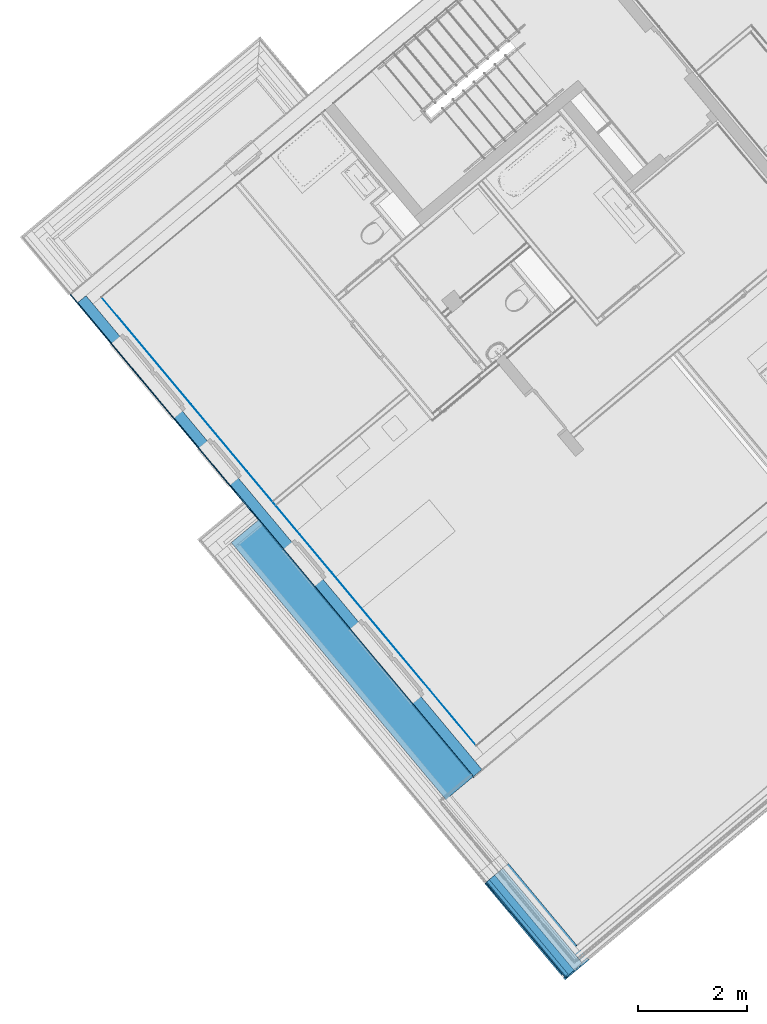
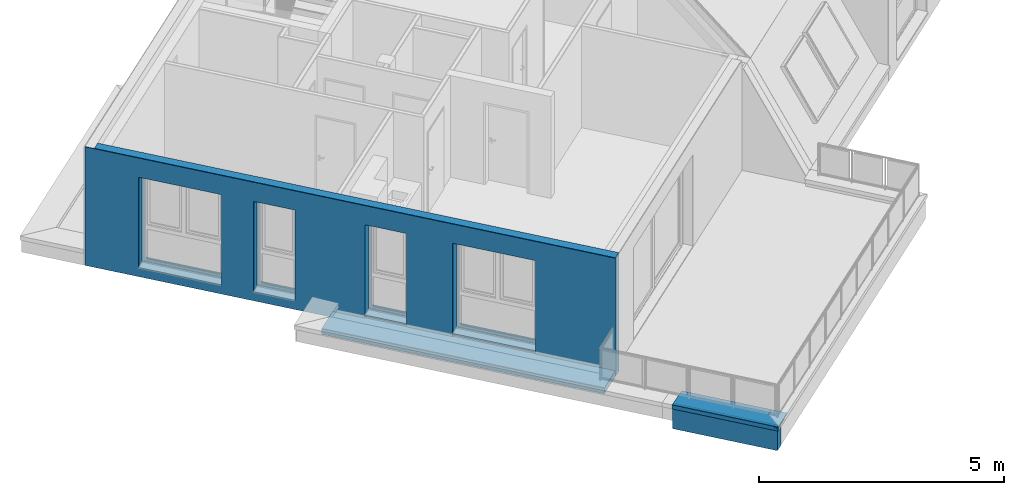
# One storey, part 16 of 61: 12 building element parts, 4 openings, 3 elements without a shape of their own.
"""IFC4 building model written with IfcOpenShell, lengths in metres."""

from ifc_helpers import new_model, entity, si_unit, converted_unit, derived_unit, direction, frame, origin_with_axes, place, context, subcontext, project, spatial, polygons, material, type_object, element, aggregate, save


model = new_model("IFC4")

# Units and contexts
model_context = context("Model", 3, precision=1e-05, world=origin_with_axes(), true_north=direction((0.0, 1.0)))
body_context = subcontext(model_context, "Body", "Model", "MODEL_VIEW")
ifc_project = project(units=[si_unit("LENGTHUNIT", "METRE"), si_unit("AREAUNIT", "SQUARE_METRE"), si_unit("VOLUMEUNIT", "CUBIC_METRE"), converted_unit("PLANEANGLEUNIT", "DEGREE", entity("IfcPlaneAngleMeasure", 0.0174532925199), si_unit("PLANEANGLEUNIT", "RADIAN"), dimensions=[0, 0, 0, 0, 0, 0, 0]), converted_unit("TIMEUNIT", "Year", entity("IfcTimeMeasure", 31556926.0), si_unit("TIMEUNIT", "SECOND"), dimensions=[0, 0, 1, 0, 0, 0, 0]), si_unit("MASSUNIT", "GRAM", prefix="KILO"), si_unit("THERMODYNAMICTEMPERATUREUNIT", "DEGREE_CELSIUS"), si_unit("LUMINOUSINTENSITYUNIT", "LUMEN"), si_unit("ENERGYUNIT", "JOULE", prefix="MEGA"), derived_unit("THERMALCONDUCTANCEUNIT", [(si_unit("POWERUNIT", "WATT"), 1), (si_unit("LENGTHUNIT", "METRE"), -1), (si_unit("THERMODYNAMICTEMPERATUREUNIT", "KELVIN"), -1)]), derived_unit("SPECIFICHEATCAPACITYUNIT", [(si_unit("ENERGYUNIT", "JOULE"), 1), (si_unit("MASSUNIT", "GRAM", prefix="KILO"), -1), (si_unit("THERMODYNAMICTEMPERATUREUNIT", "KELVIN"), -1)]), derived_unit("MASSDENSITYUNIT", [(si_unit("MASSUNIT", "GRAM", prefix="KILO"), 1), (si_unit("VOLUMEUNIT", "CUBIC_METRE"), -1)])], contexts=[model_context])

# Site, building, storey
site_placement = place(None, frame((-0.00153261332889, -0.00661245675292, 0.0), z_axis=(0.0, 0.0, 1.0), x_axis=(1.0, 0.0, 0.0)))
site = spatial("IfcSite", under=ifc_project, at=site_placement, Name="Gelände", CompositionType="ELEMENT")
building_placement = place(site_placement, origin_with_axes())
building = spatial("IfcBuilding", under=site, at=building_placement, Name="Gebäude", CompositionType="ELEMENT")
storey_placement = place(building_placement, frame((0.0, 0.0, 5.7), z_axis=(0.0, 0.0, 1.0), x_axis=(1.0, 0.0, 0.0)))
storey = spatial("IfcBuildingStorey", under=building, at=storey_placement, Name="DG1", CompositionType="ELEMENT", Elevation=5.7)

# Wall, openings, building element parts
wall_type_1 = type_object("IfcWallType", Name="AW EG 420", PredefinedType="NOTDEFINED")
wall_1_placement = place(storey_placement, frame((-8.68307438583, 19.0183290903, 0.0), z_axis=(0.0, 0.0, 1.0), x_axis=(0.641209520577, -0.767365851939, 0.0)))
wall_1 = element("IfcWall", 1, at=wall_1_placement, inside=storey, type_object=wall_type_1, Name="Wand-002", PredefinedType="NOTDEFINED")
opening_1_placement = place(wall_1_placement, frame((6.56443580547, 0.0, 0.22), z_axis=(0.0, 0.0, 1.0), x_axis=(1.0, 0.0, 0.0)))
element("IfcOpeningElement", 2, at=opening_1_placement, cuts=wall_1, Name="Fenster-001", context=body_context, identifier="Reference", shape_type="Tessellation", body=[
    polygons([(0.45, 0.215, 0.0), (0.45, 0.215, 2.26), (0.45, -5.69878587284, 2.26), (0.45, -5.69878587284, 0.0), (0.45, 6.11878587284, 0.0), (0.45, 6.11878587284, 2.26), (-0.45, 0.215, 2.26), (-0.45, -5.69878587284, 2.26), (-0.45, 6.11878587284, 2.26), (-0.45, -5.69878587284, 0.0), (-0.45, 0.215, 0.0), (-0.45, 6.11878587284, 0.0)], [[[1, 2, 3, 4]], [[2, 1, 5, 6]], [[7, 8, 3, 2, 6, 9]], [[8, 10, 4, 3]], [[1, 4, 10, 11, 12, 5]], [[6, 5, 12, 9]], [[7, 11, 10, 8]], [[11, 7, 9, 12]]], closed=True),
])
opening_2_placement = place(wall_1_placement, frame((8.92445021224, 0.0, 0.22), z_axis=(0.0, 0.0, 1.0), x_axis=(1.0, 0.0, 0.0)))
element("IfcOpeningElement", 3, at=opening_2_placement, cuts=wall_1, Name="Fenster-001", context=body_context, identifier="Reference", shape_type="Tessellation", body=[
    polygons([(0.9, 0.215, 0.0), (0.9, 0.215, 2.26), (0.9, -5.69878587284, 2.26), (0.9, -5.69878587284, 0.0), (0.9, 6.11878587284, 0.0), (0.9, 6.11878587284, 2.26), (-0.9, 0.215, 2.26), (-0.9, -5.69878587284, 2.26), (-0.9, 6.11878587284, 2.26), (-0.9, -5.69878587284, 0.0), (-0.9, 0.215, 0.0), (-0.9, 6.11878587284, 0.0)], [[[1, 2, 3, 4]], [[2, 1, 5, 6]], [[7, 8, 3, 2, 6, 9]], [[8, 10, 4, 3]], [[1, 4, 10, 11, 12, 5]], [[6, 5, 12, 9]], [[7, 11, 10, 8]], [[11, 7, 9, 12]]], closed=True),
])
opening_3_placement = place(wall_1_placement, frame((4.13955898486, 0.0, 0.22), z_axis=(0.0, 0.0, 1.0), x_axis=(1.0, 0.0, 0.0)))
element("IfcOpeningElement", 4, at=opening_3_placement, cuts=wall_1, Name="Fenster-001", context=body_context, identifier="Reference", shape_type="Tessellation", body=[
    polygons([(0.45, 0.215, 0.0), (0.45, 0.215, 2.26), (0.45, -5.69878587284, 2.26), (0.45, -5.69878587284, 0.0), (0.45, 6.11878587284, 0.0), (0.45, 6.11878587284, 2.26), (-0.45, 0.215, 2.26), (-0.45, -5.69878587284, 2.26), (-0.45, 6.11878587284, 2.26), (-0.45, -5.69878587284, 0.0), (-0.45, 0.215, 0.0), (-0.45, 6.11878587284, 0.0)], [[[1, 2, 3, 4]], [[2, 1, 5, 6]], [[7, 8, 3, 2, 6, 9]], [[8, 10, 4, 3]], [[1, 4, 10, 11, 12, 5]], [[6, 5, 12, 9]], [[7, 11, 10, 8]], [[11, 7, 9, 12]]], closed=True),
])
opening_4_placement = place(wall_1_placement, frame((2.0854909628, 0.0, 0.22), z_axis=(0.0, 0.0, 1.0), x_axis=(1.0, 0.0, 0.0)))
element("IfcOpeningElement", 5, at=opening_4_placement, cuts=wall_1, Name="Fenster-001", context=body_context, identifier="Reference", shape_type="Tessellation", body=[
    polygons([(0.9, 0.215, 0.0), (0.9, 0.215, 2.26), (0.9, -5.69878587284, 2.26), (0.9, -5.69878587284, 0.0), (0.9, 6.11878587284, 0.0), (0.9, 6.11878587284, 2.26), (-0.9, 0.215, 2.26), (-0.9, -5.69878587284, 2.26), (-0.9, 6.11878587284, 2.26), (-0.9, -5.69878587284, 0.0), (-0.9, 0.215, 0.0), (-0.9, 6.11878587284, 0.0)], [[[1, 2, 3, 4]], [[2, 1, 5, 6]], [[7, 8, 3, 2, 6, 9]], [[8, 10, 4, 3]], [[1, 4, 10, 11, 12, 5]], [[6, 5, 12, 9]], [[7, 11, 10, 8]], [[11, 7, 9, 12]]], closed=True),
])
ifc_material_1 = material(Name="Zementputz")
building_element_part_1_placement = place(wall_1_placement, origin_with_axes())
building_element_part_1 = element("IfcBuildingElementPart", 6, at=building_element_part_1_placement, material=ifc_material_1, Name="Zementputz", PredefinedType="NOTDEFINED", context=body_context, shape_type="Tessellation", body=[
    polygons([(11.1645998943, 0.415, 2.76), (0.42, 0.415, 2.76), (0.42, 0.415, 0.0), (11.1645998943, 0.415, 0.0), (7.01443580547, 0.415, 0.22), (6.11443580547, 0.415, 0.22), (6.11443580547, 0.415, 2.48), (7.01443580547, 0.415, 2.48), (9.82445021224, 0.415, 2.48), (9.82445021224, 0.415, 0.22), (8.02445021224, 0.415, 0.22), (8.02445021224, 0.415, 2.48), (3.68955898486, 0.415, 2.48), (4.58955898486, 0.415, 2.48), (4.58955898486, 0.415, 0.22), (3.68955898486, 0.415, 0.22), (1.1854909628, 0.415, 0.22), (1.1854909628, 0.415, 2.48), (2.9854909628, 0.415, 2.48), (2.9854909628, 0.415, 0.22), (11.1645966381, 0.42, 2.76), (0.42, 0.42, 2.76), (0.42, 0.42, 0.0), (11.1645966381, 0.42, 0.0), (7.01443580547, 0.42, 0.22), (6.11443580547, 0.42, 0.22), (6.11443580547, 0.42, 2.48), (7.01443580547, 0.42, 2.48), (9.82445021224, 0.42, 2.48), (9.82445021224, 0.42, 0.22), (8.02445021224, 0.42, 0.22), (8.02445021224, 0.42, 2.48), (4.58955898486, 0.42, 2.48), (3.68955898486, 0.42, 2.48), (4.58955898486, 0.42, 0.22), (3.68955898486, 0.42, 0.22), (1.1854909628, 0.42, 0.22), (1.1854909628, 0.42, 2.48), (2.9854909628, 0.42, 2.48), (2.9854909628, 0.42, 0.22)], [[[1, 2, 3, 4], [5, 6, 7, 8], [9, 10, 11, 12], [13, 14, 15, 16], [17, 18, 19, 20]], [[1, 21, 22, 2]], [[2, 22, 23, 3]], [[24, 4, 3, 23]], [[21, 1, 4, 24]], [[5, 25, 26, 6]], [[6, 26, 27, 7]], [[7, 27, 28, 8]], [[8, 28, 25, 5]], [[10, 9, 29, 30]], [[11, 10, 30, 31]], [[12, 11, 31, 32]], [[9, 12, 32, 29]], [[33, 14, 13, 34]], [[35, 15, 14, 33]], [[36, 16, 15, 35]], [[34, 13, 16, 36]], [[37, 38, 18, 17]], [[38, 39, 19, 18]], [[39, 40, 20, 19]], [[40, 37, 17, 20]], [[22, 21, 24, 23], [27, 26, 25, 28], [29, 32, 31, 30], [35, 33, 34, 36], [37, 40, 39, 38]]], closed=True),
])
ifc_material_2 = material(Name="EPS 1")
building_element_part_2_placement = place(wall_1_placement, origin_with_axes())
building_element_part_2 = element("IfcBuildingElementPart", 7, at=building_element_part_2_placement, material=ifc_material_2, Name="EPS 1", PredefinedType="NOTDEFINED", context=body_context, shape_type="Tessellation", body=[
    polygons([(11.5648604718, 0.015, 0.0), (11.5648604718, 0.015, 2.96), (0.215, 0.015, 2.96), (0.215, 0.015, 0.0), (7.01443580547, 0.015, 0.22), (6.11443580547, 0.015, 0.22), (6.11443580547, 0.015, 2.48), (7.01443580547, 0.015, 2.48), (9.82445021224, 0.015, 2.48), (9.82445021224, 0.015, 0.22), (8.02445021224, 0.015, 0.22), (8.02445021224, 0.015, 2.48), (3.68955898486, 0.015, 2.48), (4.58955898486, 0.015, 2.48), (4.58955898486, 0.015, 0.22), (3.68955898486, 0.015, 0.22), (1.1854909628, 0.015, 0.22), (1.1854909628, 0.015, 2.48), (2.9854909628, 0.015, 2.48), (2.9854909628, 0.015, 0.22), (11.5647302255, 0.215, 0.0), (11.5647302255, 0.215, 2.96), (0.215, 0.215, 2.96), (0.215, 0.215, 0.0), (7.01443580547, 0.215, 0.22), (6.11443580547, 0.215, 0.22), (6.11443580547, 0.215, 2.48), (7.01443580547, 0.215, 2.48), (9.82445021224, 0.215, 2.48), (9.82445021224, 0.215, 0.22), (8.02445021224, 0.215, 0.22), (8.02445021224, 0.215, 2.48), (4.58955898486, 0.215, 2.48), (3.68955898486, 0.215, 2.48), (4.58955898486, 0.215, 0.22), (3.68955898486, 0.215, 0.22), (1.1854909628, 0.215, 0.22), (1.1854909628, 0.215, 2.48), (2.9854909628, 0.215, 2.48), (2.9854909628, 0.215, 0.22)], [[[1, 2, 3, 4], [5, 6, 7, 8], [9, 10, 11, 12], [13, 14, 15, 16], [17, 18, 19, 20]], [[1, 21, 22, 2]], [[2, 22, 23, 3]], [[23, 24, 4, 3]], [[21, 1, 4, 24]], [[5, 25, 26, 6]], [[6, 26, 27, 7]], [[7, 27, 28, 8]], [[8, 28, 25, 5]], [[10, 9, 29, 30]], [[11, 10, 30, 31]], [[12, 11, 31, 32]], [[9, 12, 32, 29]], [[33, 14, 13, 34]], [[35, 15, 14, 33]], [[36, 16, 15, 35]], [[34, 13, 16, 36]], [[37, 38, 18, 17]], [[38, 39, 19, 18]], [[39, 40, 20, 19]], [[40, 37, 17, 20]], [[22, 21, 24, 23], [27, 26, 25, 28], [29, 32, 31, 30], [35, 33, 34, 36], [37, 40, 39, 38]]], closed=True),
])
building_element_part_3_placement = place(wall_1_placement, origin_with_axes())
building_element_part_3 = element("IfcBuildingElementPart", 8, at=building_element_part_3_placement, material=ifc_material_1, Name="Zementputz", PredefinedType="NOTDEFINED", context=body_context, shape_type="Tessellation", body=[
    polygons([(7.01443580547, 0.0, 2.48), (7.01443580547, 0.0, 0.22), (7.01443580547, 0.0, 0.15), (8.02445021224, 0.0, 0.15), (8.02445021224, 0.0, 0.22), (8.02445021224, 0.0, 2.48), (9.82445021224, 0.0, 2.48), (9.82445021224, 0.0, 0.22), (9.82445021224, 0.0, 0.15), (11.5798702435, 0.0, 0.15), (11.5798702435, 0.0, 2.96), (0.015, 0.0, 2.96), (0.015, 0.0, 0.0), (5.41075109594, 0.0, 0.0), (5.41075109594, 0.0, 0.15), (6.11443580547, 0.0, 0.15), (6.11443580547, 0.0, 0.22), (6.11443580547, 0.0, 2.48), (3.68955898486, 0.0, 2.48), (4.58955898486, 0.0, 2.48), (4.58955898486, 0.0, 0.22), (3.68955898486, 0.0, 0.22), (1.1854909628, 0.0, 0.22), (1.1854909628, 0.0, 2.48), (2.9854909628, 0.0, 2.48), (2.9854909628, 0.0, 0.22), (7.01443580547, 0.0150000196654, 2.48), (7.01443580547, 0.0150000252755, 0.22), (7.01443580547, 0.0150000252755, 0.15), (8.02445021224, 0.0150000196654, 0.15), (8.02445021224, 0.0150000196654, 0.22), (8.02445021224, 0.0150000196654, 2.48), (9.82445021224, 0.0150000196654, 2.48), (9.82445021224, 0.0150000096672, 0.22), (9.82445021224, 0.0150000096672, 0.15), (11.579860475, 0.015, 0.15), (11.579860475, 0.015, 2.96), (0.015, 0.015, 2.96), (0.015, 0.015, 0.0), (5.41078870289, 0.0150000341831, 0.0), (5.41078870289, 0.0150000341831, 0.15), (6.11443580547, 0.0150000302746, 0.15), (6.11443580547, 0.0150000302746, 0.22), (6.11443580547, 0.0150000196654, 2.48), (4.58955898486, 0.0150000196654, 2.48), (3.68955898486, 0.0150000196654, 2.48), (4.58955898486, 0.0150000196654, 0.22), (3.68955898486, 0.0150000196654, 0.22), (1.1854909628, 0.0150000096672, 0.22), (1.1854909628, 0.0150000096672, 2.48), (2.9854909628, 0.0150000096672, 2.48), (2.9854909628, 0.0150000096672, 0.22)], [[[1, 2, 3, 4, 5, 6, 7, 8, 9, 10, 11, 12, 13, 14, 15, 16, 17, 18], [19, 20, 21, 22], [23, 24, 25, 26]], [[1, 27, 28, 2]], [[3, 2, 28, 29]], [[30, 4, 3, 29]], [[4, 30, 31, 5]], [[6, 5, 31, 32]], [[7, 6, 32, 33]], [[8, 7, 33, 34]], [[35, 9, 8, 34]], [[9, 35, 36, 10]], [[10, 36, 37, 11]], [[11, 37, 38, 12]], [[38, 39, 13, 12]], [[40, 14, 13, 39]], [[41, 15, 14, 40]], [[42, 16, 15, 41]], [[42, 43, 17, 16]], [[17, 43, 44, 18]], [[18, 44, 27, 1]], [[45, 20, 19, 46]], [[47, 21, 20, 45]], [[48, 22, 21, 47]], [[46, 19, 22, 48]], [[49, 50, 24, 23]], [[50, 51, 25, 24]], [[51, 52, 26, 25]], [[52, 49, 23, 26]], [[38, 37, 36, 35, 34, 33, 32, 31, 30, 29, 28, 27, 44, 43, 42, 41, 40, 39], [47, 45, 46, 48], [49, 52, 51, 50]]], closed=True),
])
aggregate(wall_1, [building_element_part_1, building_element_part_2, building_element_part_3])

# Wall, building element parts
wall_type_2 = type_object("IfcWallType", Name="Balkon Dämmung runter 574 x 610", PredefinedType="NOTDEFINED")
wall_2_placement = place(storey_placement, frame((-0.869246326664, 8.34153645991, -0.2), z_axis=(0.0, 0.0, 1.0), x_axis=(0.640952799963, -0.767580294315, 0.0)))
wall_2 = element("IfcWall", 9, at=wall_2_placement, inside=storey, type_object=wall_type_2, Name="Wand-004", PredefinedType="NOTDEFINED")
ifc_material_3 = material(Name="Stahl")
building_element_part_4_placement = place(wall_2_placement, origin_with_axes())
building_element_part_4 = element("IfcBuildingElementPart", 10, at=building_element_part_4_placement, material=ifc_material_3, Name="Stahl", PredefinedType="NOTDEFINED", context=body_context, shape_type="Tessellation", body=[
    polygons([(2.31177297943, -0.241500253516, 0.575979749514), (2.31177213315, -0.241500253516, 0.510056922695), (2.31177113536, -0.239536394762, 0.510056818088), (2.31177146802, -0.238182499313, 0.511410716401), (2.3117723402, -0.240097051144, 0.511410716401), (2.31177158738, -0.240146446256, 0.51136132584), (2.31177236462, -0.240150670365, 0.575979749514), (2.31172276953, -0.241500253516, 0.510007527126), (2.31042339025, -0.241500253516, 0.575979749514), (2.25910484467, -0.241500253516, 0.575979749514), (2.19919057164, -0.241500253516, 0.575979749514), (2.19919057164, -0.241500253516, 0.57982217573), (2.19919057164, -0.241500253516, 0.581921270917), (2.25907296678, -0.241500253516, 0.581921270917), (2.31042377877, -0.241500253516, 0.581921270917), (2.31177297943, -0.241500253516, 0.581921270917), (2.31177297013, -0.241500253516, 0.608602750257), (2.31042551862, -0.241500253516, 0.608602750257), (2.30915944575, -0.241500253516, 0.608602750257), (2.31042552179, -0.241500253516, 0.60865214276), (2.31177297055, -0.241500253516, 0.60865214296), (2.31177298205, -0.241500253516, 0.610006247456), (-8.02066887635e-05, -0.241500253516, 0.610006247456), (-8.02066887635e-05, -0.241500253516, 0.510007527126), (2.3108152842, -0.240592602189, 0.509099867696), (2.31081523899, -0.240493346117, 0.509099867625), (2.28406254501, -0.240493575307, 0.509099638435), (2.28406256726, -0.240542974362, 0.509050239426), (-8.02066887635e-05, -0.240542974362, 0.509050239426), (-8.02066887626e-05, -0.231373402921, 0.518219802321), (2.3036054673, -0.23137340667, 0.518219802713), (2.31041765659, -0.238182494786, 0.511410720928), (2.31041852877, -0.240097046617, 0.511410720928), (-8.02066887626e-05, -0.232283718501, 0.519224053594), (-8.02066887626e-05, -0.240146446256, 0.51136132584), (2.30260163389, -0.23228372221, 0.519224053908), (2.19918995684, -0.240150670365, 0.575979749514), (2.25910422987, -0.240150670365, 0.575979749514), (2.31042277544, -0.240150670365, 0.575979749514), (-8.02066887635e-05, -0.240152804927, 0.608602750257), (2.30915883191, -0.240152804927, 0.608602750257), (2.31042490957, -0.240152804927, 0.608602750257), (2.31177219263, -0.240152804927, 0.608602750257), (2.3117723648, -0.240151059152, 0.581921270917), (2.31042316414, -0.240151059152, 0.581921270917), (2.25907235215, -0.240151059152, 0.581921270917), (2.19918995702, -0.240151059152, 0.581921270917), (2.19918995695, -0.240150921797, 0.57982217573), (2.30914178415, -0.202730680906, 0.608602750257), (2.31040848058, -0.204095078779, 0.60865214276), (2.31175593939, -0.204095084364, 0.60865214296), (2.30832403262, -0.201849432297, 0.608570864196), (1.95664024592, 0.149654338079, 0.5958462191), (1.95655714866, 0.332051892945, 0.589243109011), (0.000110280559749, 0.332051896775, 0.589243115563), (-6.78303214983e-05, -0.239287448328, 0.608571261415), (2.28406258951, -0.240592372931, 0.509099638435), (2.30834108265, -0.239276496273, 0.608570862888), (1.95665729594, 0.11222723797, 0.5958462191), (1.95655776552, 0.330698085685, 0.587937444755), (1.95655714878, 0.332051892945, 0.587937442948), (0.000110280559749, 0.332051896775, 0.489652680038), (1.95655714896, 0.332051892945, 0.586106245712), (1.95655714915, 0.332051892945, 0.584015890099), (1.95655714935, 0.332051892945, 0.581921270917), (1.95655714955, 0.332051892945, 0.579822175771), (1.95655714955, 0.332051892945, 0.575979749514), (1.95655714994, 0.332051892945, 0.575576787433), (1.95655715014, 0.332051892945, 0.573880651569), (1.95655715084, 0.332051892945, 0.567947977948), (1.9565571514, 0.332051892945, 0.560000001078), (1.95655715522, 0.332051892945, 0.519273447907), (1.95655715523, 0.332051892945, 0.519224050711), (1.95655715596, 0.332051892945, 0.511410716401), (1.95655715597, 0.332051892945, 0.51136132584), (1.95655715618, 0.332051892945, 0.509099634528), (1.95655715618, 0.332051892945, 0.509050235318), (1.9565571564, 0.332051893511, 0.506731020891), (1.95655715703, 0.332051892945, 0.499999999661), (1.95655715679, 0.332051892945, 0.498915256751), (1.95847171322, 0.332051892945, 0.498915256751), (1.95837870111, 0.332051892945, 0.498822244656), (1.95616062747, 0.332051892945, 0.496604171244), (1.96880428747, 0.332051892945, 0.496604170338), (1.96880428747, 0.332051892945, 0.491006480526), (1.96880428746, 0.33205189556, 0.489652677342), (0.000106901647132, 0.321878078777, 0.497911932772), (0.000107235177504, 0.32288233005, 0.498822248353), (0.000109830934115, 0.330698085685, 0.491006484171), (0.000109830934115, 0.330698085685, 0.587937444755), (0.000109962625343, 0.331094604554, 0.488695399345), (1.95655776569, 0.330698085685, 0.586106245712), (1.95655776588, 0.330698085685, 0.584015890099), (1.95655776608, 0.330698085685, 0.581921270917), (1.95655776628, 0.330698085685, 0.579822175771), (1.95655776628, 0.330698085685, 0.575979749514), (1.95655776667, 0.330698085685, 0.575576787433), (1.95655776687, 0.330698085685, 0.573880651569), (1.95655776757, 0.330698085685, 0.567947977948), (1.95655776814, 0.330698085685, 0.560000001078), (1.95655777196, 0.330698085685, 0.519273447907), (1.95655777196, 0.330698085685, 0.519224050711), (1.95655777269, 0.330698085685, 0.511410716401), (1.9565577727, 0.330698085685, 0.51136132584), (1.95655777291, 0.330698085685, 0.509099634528), (1.95655777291, 0.330698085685, 0.509050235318), (1.95655777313, 0.330698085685, 0.506731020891), (1.95655777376, 0.330698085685, 0.499999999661), (1.95655777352, 0.330698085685, 0.498915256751), (1.95847232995, 0.330698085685, 0.498915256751), (1.95837931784, 0.330698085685, 0.498822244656), (1.9561612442, 0.330698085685, 0.496604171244), (1.9688049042, 0.330698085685, 0.496604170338), (1.9688049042, 0.330698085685, 0.491006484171), (1.96880577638, 0.328783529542, 0.491006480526), (1.96880472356, 0.331094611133, 0.488695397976), (1.96880892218, 0.32187807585, 0.497911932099), (1.96880846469, 0.322882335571, 0.498822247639), (1.96880745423, 0.325100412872, 0.496604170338), (1.96880832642, 0.323185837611, 0.496604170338)], [[[1, 2, 3, 4, 5, 6, 7]], [[8, 2, 1, 9, 10, 11, 12, 13, 14, 15, 16, 17, 18, 19, 20, 21, 22, 23, 24]], [[2, 8, 25, 26, 3]], [[27, 28, 29, 30, 31, 32, 4, 3, 26]], [[5, 4, 32, 33]], [[34, 35, 6, 5, 33, 36]], [[37, 38, 39, 7, 6, 35, 40, 41, 42, 43, 44, 45, 46, 47, 48]], [[9, 1, 7, 39]], [[10, 9, 39, 38]], [[11, 10, 38, 37]], [[37, 48, 12, 11]], [[13, 12, 48, 47]], [[14, 13, 47, 46]], [[15, 14, 46, 45]], [[16, 15, 45, 44]], [[17, 16, 44, 43]], [[18, 17, 43, 42]], [[19, 18, 42, 41]], [[19, 41, 49, 50, 20]], [[21, 20, 50, 51]], [[22, 21, 51]], [[23, 22, 51, 50, 49, 52, 53, 54, 55]], [[29, 24, 23, 56, 40, 35, 34, 30]], [[28, 57, 25, 8, 24, 29]], [[57, 27, 26, 25]], [[57, 28, 27]], [[30, 34, 36, 31]], [[33, 32, 31, 36]], [[58, 41, 40, 56]], [[41, 58, 52, 49]], [[52, 58, 59, 53]], [[53, 59, 60, 61, 54]], [[62, 55, 54, 61, 63, 64, 65, 66, 67, 68, 69, 70, 71, 72, 73, 74, 75, 76, 77, 78, 79, 80, 81, 82, 83, 84, 85, 86]], [[87, 88, 89, 90, 56, 23, 55, 62, 91]], [[58, 56, 90, 60, 59]], [[60, 92, 63, 61]], [[92, 93, 64, 63]], [[93, 94, 65, 64]], [[94, 95, 66, 65]], [[95, 96, 67, 66]], [[96, 97, 68, 67]], [[97, 98, 69, 68]], [[98, 99, 70, 69]], [[99, 100, 71, 70]], [[100, 101, 72, 71]], [[101, 102, 73, 72]], [[102, 103, 74, 73]], [[103, 104, 75, 74]], [[104, 105, 76, 75]], [[105, 106, 77, 76]], [[106, 107, 78, 77]], [[107, 108, 79, 78]], [[108, 109, 80, 79]], [[80, 109, 110, 81]], [[110, 111, 82, 81]], [[112, 83, 82, 111]], [[83, 112, 113, 84]], [[114, 85, 84, 113]], [[114, 115, 116, 86, 85]], [[91, 62, 86, 116]], [[88, 87, 117, 118]], [[89, 88, 118, 119, 114]], [[90, 89, 114, 113, 112, 111, 110, 109, 108, 107, 106, 105, 104, 103, 102, 101, 100, 99, 98, 97, 96, 95, 94, 93, 92, 60]], [[87, 91, 116, 115, 120, 117]], [[115, 114, 119, 120]], [[120, 119, 118, 117]]], closed=True),
])
ifc_material_4 = material(Name="Holzwerkstoff")
building_element_part_5_placement = place(wall_2_placement, origin_with_axes())
building_element_part_5 = element("IfcBuildingElementPart", 11, at=building_element_part_5_placement, material=ifc_material_4, Name="Holzwerkstoff", PredefinedType="NOTDEFINED", context=body_context, shape_type="Tessellation", body=[
    polygons([(-6.30974915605e-05, -0.189984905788, 0.586106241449), (-8.02066887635e-05, -0.239999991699, 0.587852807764), (-8.02066887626e-05, -0.239276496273, 0.608570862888), (0.000109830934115, 0.330698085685, 0.587937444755), (0.000109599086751, 0.329999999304, 0.567947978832), (5.31755593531e-05, 0.160110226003, 0.573880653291), (3.32118436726e-05, 0.0999999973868, 0.575979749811), (-4.32169065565e-05, -0.130124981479, 0.584015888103), (2.25902712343, -0.189985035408, 0.586106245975), (2.30906485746, -0.239999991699, 0.587852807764), (2.30906195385, -0.239997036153, 0.587937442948), (2.30878564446, -0.239720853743, 0.595846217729), (2.30834108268, -0.239276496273, 0.608570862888), (2.30862531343, 0.112227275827, 0.595846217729), (2.30880197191, 0.330698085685, 0.587937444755), (2.30880492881, 0.330695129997, 0.587852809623), (2.2587899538, 0.330634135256, 0.586106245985), (2.19892996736, 0.330561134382, 0.584015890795), (2.13894792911, 0.330487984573, 0.581921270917), (2.07883772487, 0.330414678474, 0.579822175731), (1.96880500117, 0.330280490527, 0.575979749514), (1.95726578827, 0.330266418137, 0.575576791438), (2.07886140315, 0.33026641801, 0.575576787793), (2.07887086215, 0.330207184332, 0.573880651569), (2.07890394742, 0.329999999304, 0.567947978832), (2.07894835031, 0.160110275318, 0.573880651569), (2.07896104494, 0.111539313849, 0.575576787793), (1.95736543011, 0.111539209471, 0.575576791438), (1.96890990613, 0.100000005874, 0.575979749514), (2.0789928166, -0.0100327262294, 0.579822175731), (2.13913043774, -0.0701429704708, 0.581921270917), (2.19913983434, -0.130125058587, 0.584015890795)], [[[1, 2, 3, 4, 5, 6, 7, 8]], [[9, 10, 2, 1]], [[10, 11, 12, 13, 3, 2]], [[3, 13, 14, 15, 4]], [[5, 4, 15, 16, 17, 18, 19, 20, 21, 22, 23, 24, 25]], [[6, 5, 25, 26]], [[7, 6, 26, 27, 28, 29]], [[8, 7, 29, 30, 31, 32]], [[9, 1, 8, 32]], [[10, 9, 17, 16]], [[11, 10, 16, 15]], [[12, 11, 15, 14]], [[12, 14, 13]], [[9, 32, 18, 17]], [[32, 31, 19, 18]], [[31, 30, 20, 19]], [[30, 29, 21, 20]], [[29, 28, 22, 21]], [[28, 27, 23, 22]], [[27, 26, 24, 23]], [[26, 25, 24]]], closed=True),
])
ifc_material_5 = material(Name="Brettschichtholz")
building_element_part_6_placement = place(wall_2_placement, origin_with_axes())
building_element_part_6 = element("IfcBuildingElementPart", 12, at=building_element_part_6_placement, material=ifc_material_5, Name="Brettschichtholz", PredefinedType="NOTDEFINED", context=body_context, shape_type="Tessellation", body=[
    polygons([(-7.14054555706e-05, -0.214999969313, 0.499999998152), (-7.14054555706e-05, -0.214999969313, 0.509050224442), (-7.14054596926e-05, -0.214999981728, 0.560000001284), (-6.31440121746e-05, -0.190124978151, 0.560000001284), (-4.32169069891e-05, -0.130124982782, 0.560000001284), (3.32118462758e-05, 0.100000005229, 0.560000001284), (5.31389514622e-05, 0.160000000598, 0.560000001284), (6.64236901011e-05, 0.200000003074, 0.560000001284), (6.64236873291e-05, 0.199999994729, 0.500000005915), (2.28405351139, -0.214999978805, 0.500000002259), (2.28405351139, -0.214999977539, 0.509099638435), (2.28405350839, -0.214999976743, 0.51136132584), (2.28405350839, -0.214999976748, 0.511410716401), (2.28405350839, -0.214999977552, 0.519224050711), (2.28405350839, -0.214999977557, 0.519273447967), (2.28405350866, -0.21499998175, 0.560000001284), (2.28404217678, -0.190124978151, 0.560000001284), (2.2840148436, -0.130124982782, 0.560000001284), (2.28391000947, 0.100000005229, 0.560000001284), (2.28388267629, 0.160000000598, 0.560000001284), (2.28386445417, 0.200000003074, 0.560000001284), (2.2838644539, 0.19999999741, 0.519273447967), (2.2838644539, 0.199999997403, 0.519224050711), (2.2838644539, 0.199999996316, 0.511410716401), (2.2838644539, 0.199999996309, 0.51136132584), (2.28386445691, 0.199999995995, 0.509099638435), (2.28386445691, 0.199999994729, 0.500000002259)], [[[1, 2, 3, 4, 5, 6, 7, 8, 9]], [[2, 1, 10, 11, 12, 13, 14, 15, 16, 3]], [[3, 16, 17, 4]], [[5, 4, 17, 18]], [[6, 5, 18, 19]], [[7, 6, 19, 20]], [[8, 7, 20, 21]], [[9, 8, 21, 22, 23, 24, 25, 26, 27]], [[10, 1, 9, 27]], [[11, 10, 27, 26]], [[12, 11, 26, 25]], [[12, 25, 24, 13]], [[14, 13, 24, 23]], [[15, 14, 23, 22]], [[16, 15, 22, 21, 20, 19, 18, 17]]], closed=True),
])
building_element_part_7_placement = place(wall_2_placement, origin_with_axes())
building_element_part_7 = element("IfcBuildingElementPart", 13, at=building_element_part_7_placement, material=ifc_material_2, Name="EPS 1", PredefinedType="NOTDEFINED", context=body_context, shape_type="Tessellation", body=[
    polygons([(0.0, -6.04659078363e-09, 0.2), (0.0, -2.90217805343e-09, 0.500000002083), (2.2839555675, -2.90217982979e-09, 0.500000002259), (2.28395556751, -2.73519074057e-09, 0.200000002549), (-6.6423675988e-05, -0.19999996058, 0.499999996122), (-6.64236759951e-05, -0.1999999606, 0.2), (2.28404667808, -0.19999996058, 0.500000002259), (2.28404667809, -0.19999996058, 0.0), (2.28395556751, -2.90217894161e-09, 0.0), (0.0, -6.0465916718e-09, 0.0), (0.0, -0.199999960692, 0.200000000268), (0.0, -0.19999996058, 0.0)], [[[1, 2, 3, 4]], [[5, 2, 1, 6]], [[2, 5, 7, 3]], [[4, 3, 7, 8, 9]], [[10, 1, 4, 9]], [[6, 1, 11]], [[5, 6, 11, 12, 8, 7]], [[12, 10, 9, 8]], [[1, 10, 12, 11]]], closed=True),
])
ifc_material_6 = material(Name="Vollholz")
building_element_part_8_placement = place(wall_2_placement, origin_with_axes())
building_element_part_8 = element("IfcBuildingElementPart", 14, at=building_element_part_8_placement, material=ifc_material_6, Name="Vollholz", PredefinedType="NOTDEFINED", context=body_context, shape_type="Tessellation", body=[
    polygons([(2.25902712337, -0.189984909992, 0.586106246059), (2.25901099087, -0.130124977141, 0.584015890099), (-4.32169051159e-05, -0.130124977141, 0.584015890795), (-6.3097492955e-05, -0.189984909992, 0.586106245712), (2.25903826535, -0.189996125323, 0.584015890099), (2.25902222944, -0.130124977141, 0.581921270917), (2.19913983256, -0.130124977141, 0.581921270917), (2.1391577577, -0.130124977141, 0.581921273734), (2.1391577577, -0.130124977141, 0.57982217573), (2.1391577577, -0.130124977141, 0.575979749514), (2.19913983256, -0.130124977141, 0.575979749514), (2.2590541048, -0.130124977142, 0.575979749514), (2.25905626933, -0.130124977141, 0.575576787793), (2.25906536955, -0.130124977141, 0.573880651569), (2.25909719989, -0.130124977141, 0.567947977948), (2.25913984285, -0.130124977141, 0.560000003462), (-4.32169051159e-05, -0.130124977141, 0.560000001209), (-6.31440118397e-05, -0.190124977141, 0.560000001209), (2.25916717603, -0.190124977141, 0.560000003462), (2.25912451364, -0.19008233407, 0.567947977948), (2.2590926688, -0.190050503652, 0.573880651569), (2.25908356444, -0.190041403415, 0.575576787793), (2.25908139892, -0.190039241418, 0.575979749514), (2.19916712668, -0.190039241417, 0.575979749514), (2.13918505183, -0.190039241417, 0.575979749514), (2.13918504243, -0.190018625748, 0.57982217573), (2.1391850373, -0.190007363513, 0.581921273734), (2.19916711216, -0.190007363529, 0.581921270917), (2.25904950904, -0.190007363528, 0.581921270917)], [[[1, 2, 3, 4]], [[5, 2, 1]], [[2, 6, 7, 8, 9, 10, 11, 12, 13, 14, 15, 16, 17, 3]], [[18, 4, 3, 17]], [[5, 1, 4, 18, 19, 20, 21, 22, 23, 24, 25, 26, 27, 28, 29]], [[2, 5, 29, 6]], [[6, 29, 28, 7]], [[8, 7, 28, 27]], [[9, 8, 27, 26]], [[9, 26, 25, 10]], [[24, 11, 10, 25]], [[11, 24, 23, 12]], [[12, 23, 22, 13]], [[13, 22, 21, 14]], [[14, 21, 20, 15]], [[15, 20, 19, 16]], [[16, 19, 18, 17]]], closed=True),
])
building_element_part_9_placement = place(wall_2_placement, origin_with_axes())
building_element_part_9 = element("IfcBuildingElementPart", 15, at=building_element_part_9_placement, material=ifc_material_1, Name="Zementputz", PredefinedType="NOTDEFINED", context=body_context, shape_type="Tessellation", body=[
    polygons([(-6.64236770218e-05, -0.19999996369, 0.2), (-6.642367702e-05, -0.19999996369, 0.499999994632), (2.28404667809, -0.19999996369, 0.500000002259), (2.28404667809, -0.19999996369, 0.0), (0.0, -0.19999996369, 0.0), (0.0, -0.19999996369, 0.200000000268), (-7.14054555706e-05, -0.214999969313, 0.499999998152), (-7.14054555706e-05, -0.214999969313, 0.2), (2.28405351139, -0.214999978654, 0.500000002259), (2.28405351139, -0.214999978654, 0.0), (0.0, -0.214999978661, 0.0), (0.0, -0.214999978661, 0.200000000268)], [[[1, 2, 3, 4, 5, 6]], [[7, 2, 1, 8]], [[2, 7, 9, 3]], [[4, 3, 9, 10]], [[11, 5, 4, 10]], [[6, 5, 11, 12]], [[8, 1, 6, 12]], [[7, 8, 12, 11, 10, 9]]], closed=True),
])
aggregate(wall_2, [building_element_part_4, building_element_part_5, building_element_part_6, building_element_part_7, building_element_part_8, building_element_part_9])

# Covering, building element parts
covering_type = type_object("IfcCoveringType", Name="Balkon vor Terrasse Kies 220", PredefinedType="NOTDEFINED")
covering_placement = place(storey_placement, frame((-1.76593456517, 9.72776171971, 0.0), z_axis=(0.0, 0.0, 1.0), x_axis=(1.0, 0.0, 0.0)))
covering = element("IfcCovering", 16, at=covering_placement, inside=storey, type_object=covering_type, Name="Decke-005", PredefinedType="NOTDEFINED")
ifc_material_7 = material(Name="Sperrschicht")
building_element_part_10_placement = place(covering_placement, origin_with_axes())
building_element_part_10 = element("IfcBuildingElementPart", 17, at=building_element_part_10_placement, material=ifc_material_7, Name="Sperrschicht", PredefinedType="NOTDEFINED", context=body_context, shape_type="Tessellation", body=[
    polygons([(0.509869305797, 0.425706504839, 0.135), (0.509869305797, 0.425706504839, 0.15), (0.0, 0.0, 0.15), (0.0, 0.0, 0.135), (-3.43618007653, 5.14813105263, 0.135), (-3.43618007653, 5.14813105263, 0.15), (-3.94509461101, 4.72504524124, 0.15), (-3.94509461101, 4.72504524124, 0.135)], [[[1, 2, 3, 4]], [[5, 6, 2, 1]], [[3, 2, 6, 7]], [[4, 3, 7, 8]], [[4, 8, 5, 1]], [[8, 7, 6, 5]]], closed=True),
])
ifc_material_8 = material(Name="XPS")
building_element_part_11_placement = place(covering_placement, origin_with_axes())
building_element_part_11 = element("IfcBuildingElementPart", 18, at=building_element_part_11_placement, material=ifc_material_8, Name="XPS", PredefinedType="NOTDEFINED", context=body_context, shape_type="Tessellation", body=[
    polygons([(0.509869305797, 0.425706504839, 0.005), (0.509869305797, 0.425706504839, 0.135), (0.0, 0.0, 0.135), (0.0, 0.0, 0.005), (-3.43618007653, 5.14813105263, 0.005), (-3.43618007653, 5.14813105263, 0.135), (-3.94509461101, 4.72504524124, 0.135), (-3.94509461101, 4.72504524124, 0.005)], [[[1, 2, 3, 4]], [[5, 6, 2, 1]], [[3, 2, 6, 7]], [[4, 3, 7, 8]], [[4, 8, 5, 1]], [[8, 7, 6, 5]]], closed=True),
])
building_element_part_12_placement = place(covering_placement, origin_with_axes())
building_element_part_12 = element("IfcBuildingElementPart", 19, at=building_element_part_12_placement, material=ifc_material_7, Name="Sperrschicht", PredefinedType="NOTDEFINED", context=body_context, shape_type="Tessellation", body=[
    polygons([(0.0, 0.0, 0.0), (0.509869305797, 0.425706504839, 0.0), (0.509869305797, 0.425706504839, 0.005), (0.0, 0.0, 0.005), (-3.94509461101, 4.72504524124, 0.0), (-3.43618007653, 5.14813105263, 0.0), (-3.43618007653, 5.14813105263, 0.005), (-3.94509461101, 4.72504524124, 0.005)], [[[1, 2, 3, 4]], [[1, 5, 6, 2]], [[2, 6, 7, 3]], [[4, 3, 7, 8]], [[5, 1, 4, 8]], [[6, 5, 8, 7]]], closed=True),
])
aggregate(covering, [building_element_part_10, building_element_part_11, building_element_part_12])

save(model, "model.ifc")
